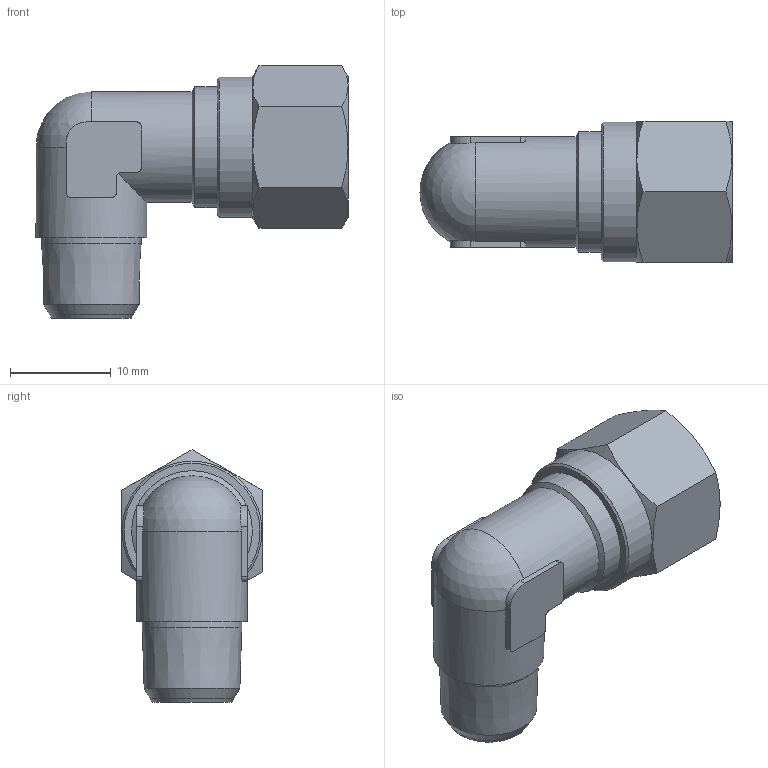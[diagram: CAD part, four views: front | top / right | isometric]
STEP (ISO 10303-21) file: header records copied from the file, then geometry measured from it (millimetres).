
FILE_DESCRIPTION(('Bauteilbeschreibung','HiCAD-Model','HiCAD-STEP-TRANSLATION','Bauteilbeschreibung'),'2;1');
FILE_NAME('B:/ABGLEICH/ZEICHNUNGEN/STEP FÜR INTERNET/STEP/205/92804_205_8_1-8.STP','2011-11-24T11:30:14+00:00',('Konstrukteur'),('Konstrukteur Firma GmbH'),' HiCAD neXt 2008, Step 3.1.1401.2J ','HiCAD neXt 2008','confidential');
FILE_SCHEMA(('AUTOMOTIVE_DESIGN { 1 2 10303 214 0 1 1 1 }'));
Length unit declared in the file: millimetre
Products named in the file (8): A2804_205_8_1_8; A2804; A28040; DIN 13_M12X1; R 1_8; A6803; A68030; DIN0130M12X1
Assembly tree (7 placements, depth 3):
  A2804_205_8_1_8
    A2804
    A28040
      DIN 13_M12X1
      R 1_8
    A6803
    A68030
      DIN0130M12X1
Bounding box: 31 x 14 x 25.08 mm (x, y, z)
Volume: 3064 mm3; surface area: 4763 mm2
Topology: 5 solids, 5 shells, 89 faces, 216 edges, 138 vertices
Faces by surface type: plane 37, cylinder 27, cone 24, sphere 1
Full cylindrical faces by diameter (mm): 6 x2, 8 x2, 9.884 x1, 10.773 x3, 11 x2, 12 x3, 13.9 x1
Entity records: 5896 total; most frequent: CARTESIAN_POINT 3082, DIRECTION 414, ORIENTED_EDGE 338, AXIS2_PLACEMENT_3D 180, EDGE_CURVE 169, COLOUR_RGB 155, PRESENTATION_STYLE_ASSIGNMENT 155, CURVE_STYLE 150
